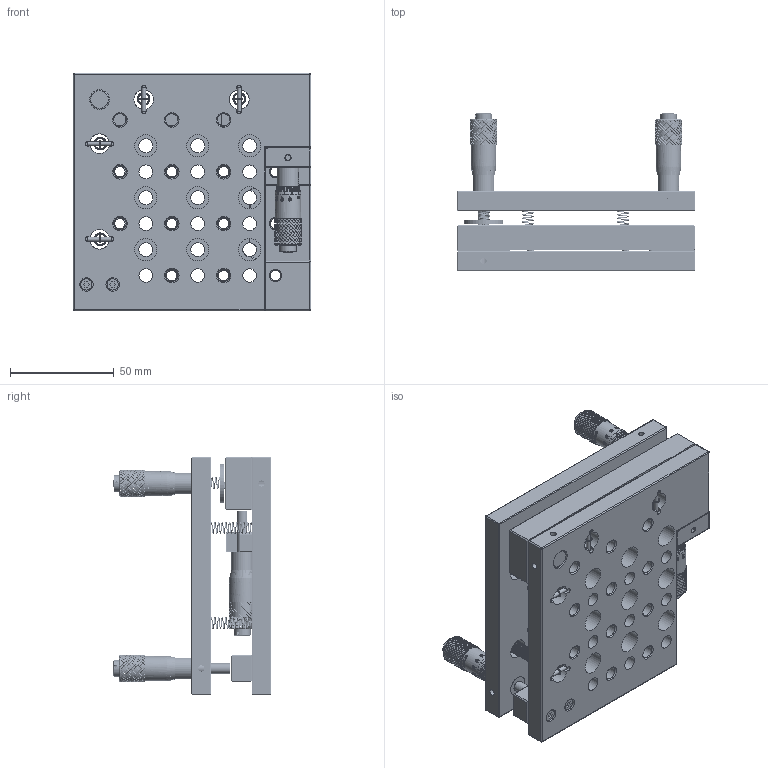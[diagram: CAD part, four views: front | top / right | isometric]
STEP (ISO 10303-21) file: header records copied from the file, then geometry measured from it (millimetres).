
FILE_DESCRIPTION (( 'STEP AP203' ), '1' );
FILE_NAME ('TP-3.step', '2017-01-10T09:27:28', ( '¦K¬P' ), ( '' ), 'SwSTEP 2.0', 'SolidWorks 2012', '' );
FILE_SCHEMA (( 'CONFIG_CONTROL_DESIGN' ));
Products named in the file (1): TP-3
Bounding box: 114.5 x 76.44 x 114.5 mm (x, y, z)
Surface area: 89050.8 mm2 (no closed solid volume)
Topology: 0 solids, 171 shells, 3188 faces, 14661 edges, 10863 vertices
Faces by surface type: bspline 1554, cylinder 1338, plane 213, cone 48, sphere 25, torus 10
Full cylindrical faces by diameter (mm): 1.4 x2, 2 x8, 2.1 x1, 2.5 x1, 3 x6, 4 x1, 5 x16, 5.4 x3, 6 x13, 6.5 x2, 6.6 x9, 6.7 x9, 8 x3, 9.5 x9, 10.6 x1, 10.7 x9, 10.8 x9, 11 x1, 12 x2, 12.5 x1, 12.7 x2, 19 x1
Entity records: 332443 total; most frequent: CARTESIAN_POINT 250423, ORIENTED_EDGE 22356, EDGE_CURVE 14440, VERTEX_POINT 10831, DIRECTION 7961, B_SPLINE_CURVE_WITH_KNOTS 6068, EDGE_LOOP 3706, FACE_OUTER_BOUND 3265
